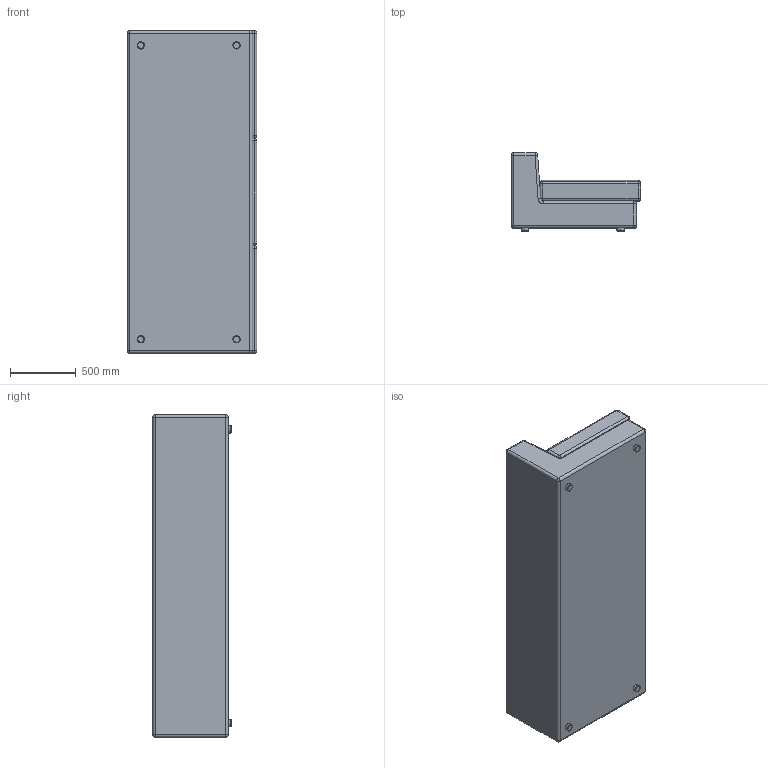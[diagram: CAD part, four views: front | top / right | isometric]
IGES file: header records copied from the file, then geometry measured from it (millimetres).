
Start section: SolidWorks IGES file using NURBS representation for surfaces
Global section: file name: G:\VICCARBE\PRODUCTOS\18-BERRY\04-MODELADOS (PLANOS)\SOLIDWORKS\ELEMENTOS\VICCARBE_Berry_B5.IGS; native system: SolidWorks 2009; preprocessor: SolidWorks 2009; author: RUBEN; date: 110902.094321; units: millimetre
Bounding box: 986.67 x 598 x 2460 mm (x, y, z)
Surface area: 12950016.7 mm2 (no closed solid volume)
Topology: 0 solids, 0 shells, 140 faces, 1066 edges, 1032 vertices
Faces by surface type: bspline 140
